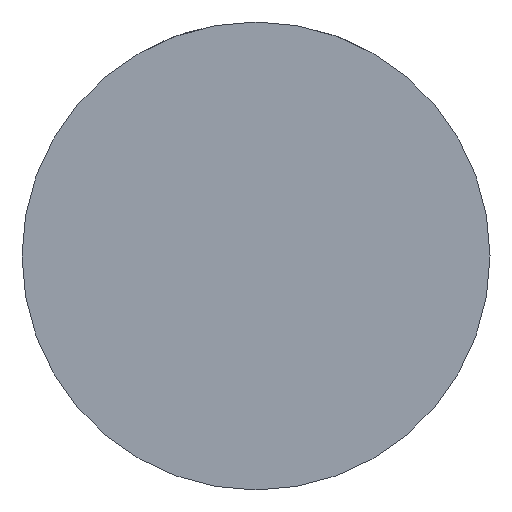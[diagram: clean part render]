
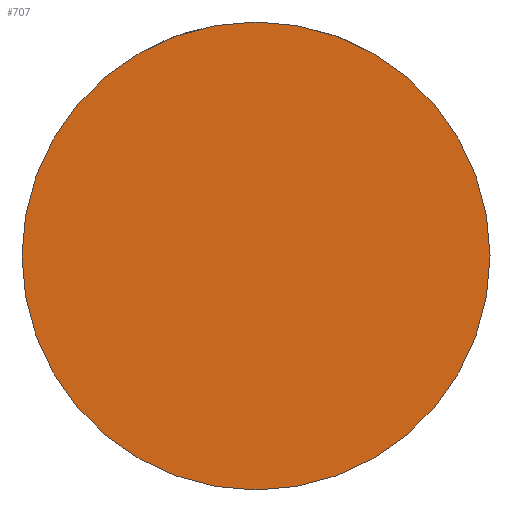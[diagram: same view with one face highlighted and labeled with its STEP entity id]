
A CAD part, front view. The second image highlights one B-rep face of the part: STEP entity #707.
In plain terms, the highlighted planar face has unit normal (0, -1, 0).
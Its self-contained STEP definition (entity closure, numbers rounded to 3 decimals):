
#114=FACE_OUTER_BOUND('',#158,.T.);
#158=EDGE_LOOP('',(#649));
#283=CIRCLE('',#783,5.713);
#343=VERTEX_POINT('',#1667);
#445=EDGE_CURVE('',#343,#343,#283,.T.);
#649=ORIENTED_EDGE('',*,*,#445,.T.);
#663=PLANE('',#784);
#707=ADVANCED_FACE('',(#114),#663,.T.);
#783=AXIS2_PLACEMENT_3D('',#1669,#958,#959);
#784=AXIS2_PLACEMENT_3D('',#1670,#960,#961);
#958=DIRECTION('center_axis',(0.,-1.,0.));
#959=DIRECTION('ref_axis',(1.,0.,0.));
#960=DIRECTION('center_axis',(0.,-1.,0.));
#961=DIRECTION('ref_axis',(-1.,0.,0.));
#1667=CARTESIAN_POINT('',(13695.21,11475.893,-1016.415));
#1669=CARTESIAN_POINT('Origin',(13700.923,11475.893,-1016.415));
#1670=CARTESIAN_POINT('Origin',(13700.923,11475.893,-1016.415));
